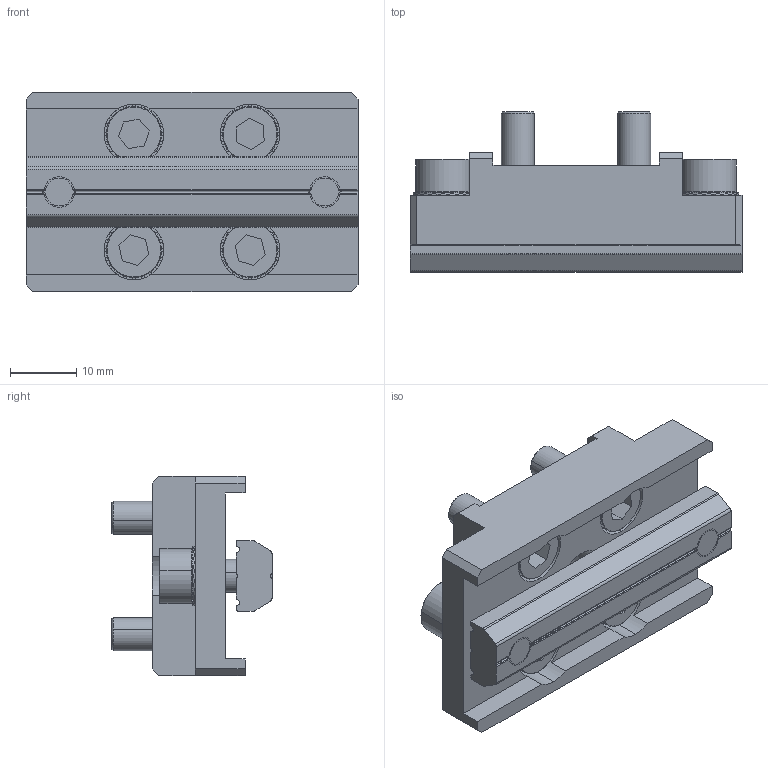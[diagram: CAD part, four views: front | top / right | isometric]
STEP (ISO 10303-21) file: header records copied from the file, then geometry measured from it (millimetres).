
FILE_DESCRIPTION (( 'STEP AP214' ), '1' );
FILE_NAME ('SMBD-2550T.STEP', '2022-12-09T01:43:38', ( '' ), ( '' ), 'SwSTEP 2.0', 'SolidWorks 2018', '' );
FILE_SCHEMA (( 'AUTOMOTIVE_DESIGN' ));
Length unit declared in the file: millimetre
Products named in the file (5): PTN-M5P40; PTS-M5; SMBD-2550; PTC-M5L12; SMBD-2550T
Assembly tree (14 placements, depth 2):
  SMBD-2550T
    SMBD-2550
    PTC-M5L12  x6
    PTN-M5P40
    PTS-M5  x6
Bounding box: 50 x 24.1 x 30 mm (x, y, z)
Volume: 14861.9 mm3; surface area: 11318.4 mm2
Topology: 14 solids, 14 shells, 1225 faces, 3567 edges, 2366 vertices
Faces by surface type: plane 1084, cylinder 105, cone 36
Entity records: 10597 total; most frequent: CARTESIAN_POINT 1959, ORIENTED_EDGE 1794, DIRECTION 1773, EDGE_CURVE 897, AXIS2_PLACEMENT_3D 602, VERTEX_POINT 596, VECTOR 569, LINE 569
